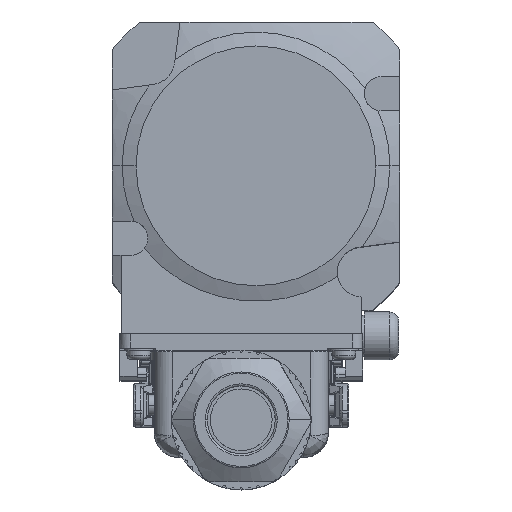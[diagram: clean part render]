
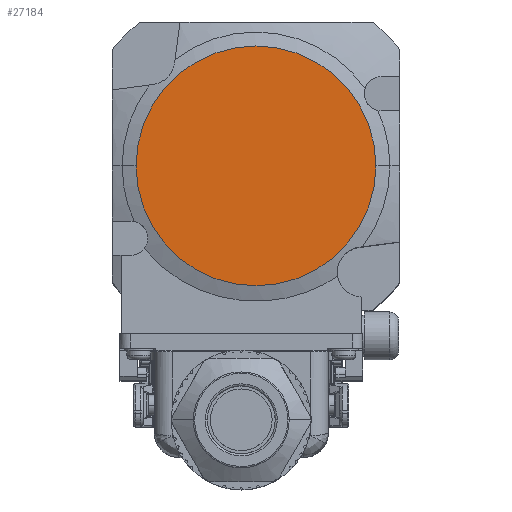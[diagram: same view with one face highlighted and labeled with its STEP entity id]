
A CAD part, top view. The second image highlights one B-rep face of the part: STEP entity #27184.
In plain terms, the highlighted planar face has unit normal (0, 0, 1).
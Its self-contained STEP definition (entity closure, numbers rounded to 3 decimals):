
#4002 = VERTEX_POINT ( 'NONE', #30836 ) ;
#4602 = DIRECTION ( 'NONE',  ( 1., 0., 0. ) ) ;
#10021 = DIRECTION ( 'NONE',  ( 0., 0., 1. ) ) ;
#13620 = AXIS2_PLACEMENT_3D ( 'NONE', #25259, #30340, #21999 ) ;
#14628 = CARTESIAN_POINT ( 'NONE',  ( 0., 0., 98. ) ) ;
#16752 = PLANE ( 'NONE',  #13620 ) ;
#17076 = AXIS2_PLACEMENT_3D ( 'NONE', #14628, #34175, #33477 ) ;
#20854 = ORIENTED_EDGE ( 'NONE', *, *, #25743, .T. ) ;
#21999 = DIRECTION ( 'NONE',  ( 1., 0., 0. ) ) ;
#23936 = CARTESIAN_POINT ( 'NONE',  ( 0., 0., 98. ) ) ;
#24009 = CIRCLE ( 'NONE', #17076, 17.5 ) ;
#25259 = CARTESIAN_POINT ( 'NONE',  ( 0., 0., 98. ) ) ;
#25743 = EDGE_CURVE ( 'NONE', #26514, #4002, #24009, .T. ) ;
#26514 = VERTEX_POINT ( 'NONE', #28423 ) ;
#27184 = ADVANCED_FACE ( 'NONE', ( #29974 ), #16752, .T. ) ;
#28158 = AXIS2_PLACEMENT_3D ( 'NONE', #23936, #10021, #4602 ) ;
#28423 = CARTESIAN_POINT ( 'NONE',  ( 17.5, 0., 98. ) ) ;
#29974 = FACE_OUTER_BOUND ( 'NONE', #31411, .T. ) ;
#30014 = ORIENTED_EDGE ( 'NONE', *, *, #33494, .T. ) ;
#30340 = DIRECTION ( 'NONE',  ( 0., 0., 1. ) ) ;
#30836 = CARTESIAN_POINT ( 'NONE',  ( -17.5, 0., 98. ) ) ;
#31411 = EDGE_LOOP ( 'NONE', ( #30014, #20854 ) ) ;
#33477 = DIRECTION ( 'NONE',  ( 1., 0., 0. ) ) ;
#33494 = EDGE_CURVE ( 'NONE', #4002, #26514, #34495, .T. ) ;
#34175 = DIRECTION ( 'NONE',  ( 0., 0., 1. ) ) ;
#34495 = CIRCLE ( 'NONE', #28158, 17.5 ) ;
